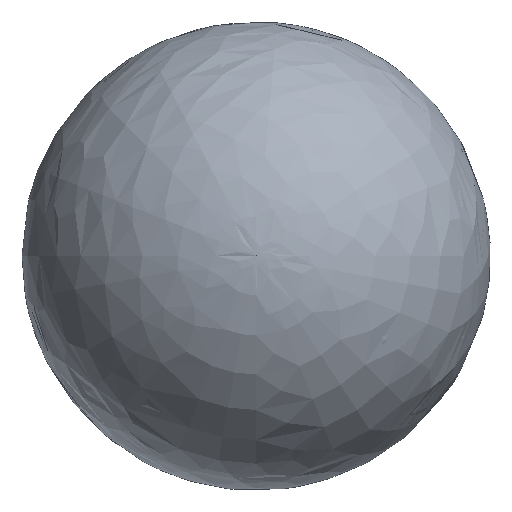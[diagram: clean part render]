
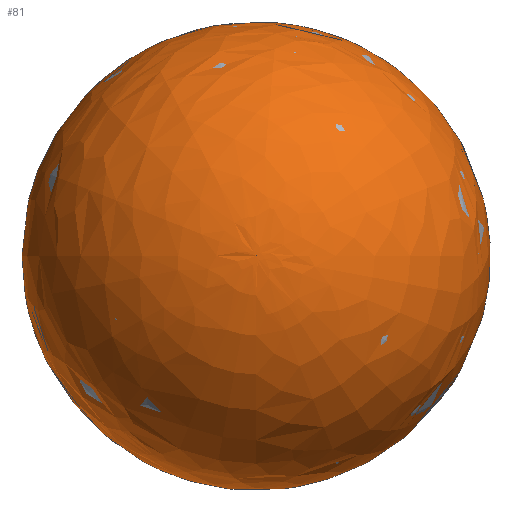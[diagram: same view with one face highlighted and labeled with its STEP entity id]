
A CAD part, top view. The second image highlights one B-rep face of the part: STEP entity #81.
In plain terms, the highlighted free-form (B-spline) face has degree [2, 2] with [5, 9] control points.
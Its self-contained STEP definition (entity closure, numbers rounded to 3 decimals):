
#28=FACE_OUTER_BOUND('',#35,.T.);
#35=EDGE_LOOP('',(#68,#69,#70));
#41=CIRCLE('',#93,39.88);
#42=CIRCLE('',#94,150.);
#48=VERTEX_POINT('',#176);
#49=VERTEX_POINT('',#223);
#58=EDGE_CURVE('',#48,#48,#41,.T.);
#59=EDGE_CURVE('',#49,#48,#42,.T.);
#68=ORIENTED_EDGE('',*,*,#59,.T.);
#69=ORIENTED_EDGE('',*,*,#58,.T.);
#70=ORIENTED_EDGE('',*,*,#59,.F.);
#78=(
BOUNDED_SURFACE()
B_SPLINE_SURFACE(2,2,((#178,#179,#180,#181,#182,#183,#184,#185,#186),(#187,
#188,#189,#190,#191,#192,#193,#194,#195),(#196,#197,#198,#199,#200,#201,
#202,#203,#204),(#205,#206,#207,#208,#209,#210,#211,#212,#213),(#214,#215,
#216,#217,#218,#219,#220,#221,#222)),.UNSPECIFIED.,.F.,.T.,.F.)
B_SPLINE_SURFACE_WITH_KNOTS((3,2,3),(3,2,2,2,3),(-1.302,0.135,
1.571),(-3.142,-1.571,0.,1.571,
3.142),.UNSPECIFIED.)
GEOMETRIC_REPRESENTATION_ITEM()
RATIONAL_B_SPLINE_SURFACE(((1.,0.707,1.,0.707,1.,
0.707,1.,0.707,1.),(0.753,0.532,
0.753,0.532,0.753,0.532,
0.753,0.532,0.753),(1.,0.707,
1.,0.707,1.,0.707,1.,0.707,1.),(0.753,
0.532,0.753,0.532,0.753,
0.532,0.753,0.532,0.753),
(1.,0.707,1.,0.707,1.,0.707,1.,0.707,
1.)))
REPRESENTATION_ITEM('')
SURFACE()
);
#81=ADVANCED_FACE('',(#28),#78,.F.);
#93=AXIS2_PLACEMENT_3D('',#177,#109,#110);
#94=AXIS2_PLACEMENT_3D('',#224,#111,#112);
#109=DIRECTION('center_axis',(0.,0.,1.));
#110=DIRECTION('ref_axis',(1.,0.,0.));
#111=DIRECTION('center_axis',(0.,-1.,0.));
#112=DIRECTION('ref_axis',(-1.,0.,0.));
#176=CARTESIAN_POINT('',(-39.977,0.,8.372));
#177=CARTESIAN_POINT('Origin',(-0.096,0.,8.372));
#178=CARTESIAN_POINT('Ctrl Pts',(-39.977,0.,8.372));
#179=CARTESIAN_POINT('Ctrl Pts',(-39.977,-39.88,8.372));
#180=CARTESIAN_POINT('Ctrl Pts',(-0.096,-39.88,
8.372));
#181=CARTESIAN_POINT('Ctrl Pts',(39.784,-39.88,8.372));
#182=CARTESIAN_POINT('Ctrl Pts',(39.784,0.,8.372));
#183=CARTESIAN_POINT('Ctrl Pts',(39.784,39.88,8.372));
#184=CARTESIAN_POINT('Ctrl Pts',(-0.096,39.88,8.372));
#185=CARTESIAN_POINT('Ctrl Pts',(-39.977,39.88,8.372));
#186=CARTESIAN_POINT('Ctrl Pts',(-39.977,0.,8.372));
#187=CARTESIAN_POINT('Ctrl Pts',(-166.428,0.,43.157));
#188=CARTESIAN_POINT('Ctrl Pts',(-166.428,-166.332,43.157));
#189=CARTESIAN_POINT('Ctrl Pts',(-0.096,-166.332,
43.157));
#190=CARTESIAN_POINT('Ctrl Pts',(166.236,-166.332,43.157));
#191=CARTESIAN_POINT('Ctrl Pts',(166.236,0.,43.157));
#192=CARTESIAN_POINT('Ctrl Pts',(166.236,166.332,43.157));
#193=CARTESIAN_POINT('Ctrl Pts',(-0.096,166.332,43.157));
#194=CARTESIAN_POINT('Ctrl Pts',(-166.428,166.332,43.157));
#195=CARTESIAN_POINT('Ctrl Pts',(-166.428,0.,43.157));
#196=CARTESIAN_POINT('Ctrl Pts',(-148.837,0.,173.12));
#197=CARTESIAN_POINT('Ctrl Pts',(-148.837,-148.741,173.12));
#198=CARTESIAN_POINT('Ctrl Pts',(-0.096,-148.741,
173.12));
#199=CARTESIAN_POINT('Ctrl Pts',(148.644,-148.741,173.12));
#200=CARTESIAN_POINT('Ctrl Pts',(148.644,0.,173.12));
#201=CARTESIAN_POINT('Ctrl Pts',(148.644,148.741,173.12));
#202=CARTESIAN_POINT('Ctrl Pts',(-0.096,148.741,173.12));
#203=CARTESIAN_POINT('Ctrl Pts',(-148.837,148.741,173.12));
#204=CARTESIAN_POINT('Ctrl Pts',(-148.837,0.,173.12));
#205=CARTESIAN_POINT('Ctrl Pts',(-131.245,0.,303.084));
#206=CARTESIAN_POINT('Ctrl Pts',(-131.245,-131.149,303.084));
#207=CARTESIAN_POINT('Ctrl Pts',(-0.096,-131.149,
303.084));
#208=CARTESIAN_POINT('Ctrl Pts',(131.053,-131.149,303.084));
#209=CARTESIAN_POINT('Ctrl Pts',(131.053,0.,303.084));
#210=CARTESIAN_POINT('Ctrl Pts',(131.053,131.149,303.084));
#211=CARTESIAN_POINT('Ctrl Pts',(-0.096,131.149,303.084));
#212=CARTESIAN_POINT('Ctrl Pts',(-131.245,131.149,303.084));
#213=CARTESIAN_POINT('Ctrl Pts',(-131.245,0.,303.084));
#214=CARTESIAN_POINT('Ctrl Pts',(-0.096,0.,303.));
#215=CARTESIAN_POINT('Ctrl Pts',(-0.096,0.,
303.));
#216=CARTESIAN_POINT('Ctrl Pts',(-0.096,0.,
303.));
#217=CARTESIAN_POINT('Ctrl Pts',(-0.096,0.,
303.));
#218=CARTESIAN_POINT('Ctrl Pts',(-0.096,0.,303.));
#219=CARTESIAN_POINT('Ctrl Pts',(-0.096,0.,
303.));
#220=CARTESIAN_POINT('Ctrl Pts',(-0.096,0.,
303.));
#221=CARTESIAN_POINT('Ctrl Pts',(-0.096,0.,
303.));
#222=CARTESIAN_POINT('Ctrl Pts',(-0.096,0.,303.));
#223=CARTESIAN_POINT('',(-0.096,0.,303.));
#224=CARTESIAN_POINT('Origin',(-0.192,0.,
153.));
